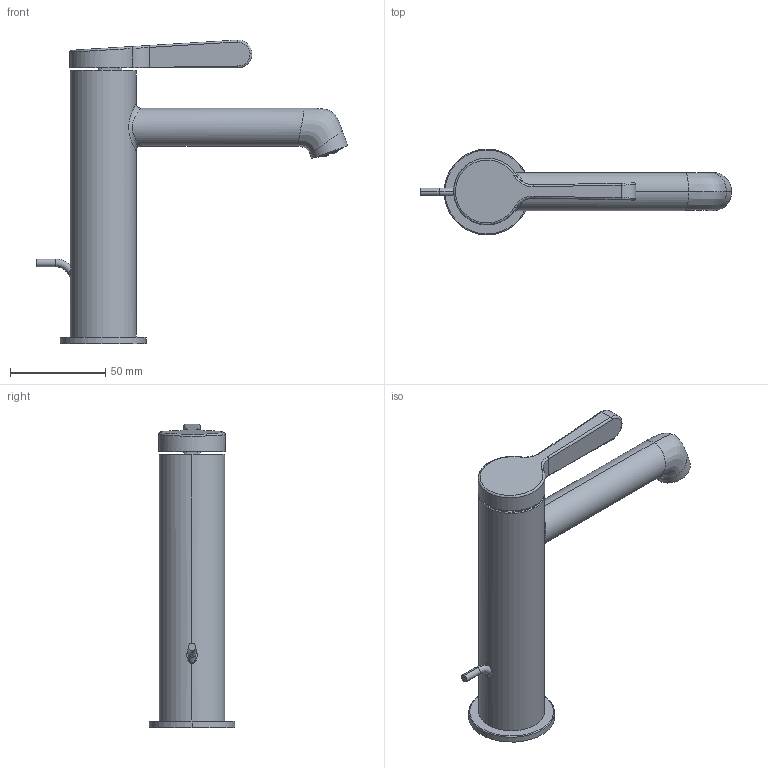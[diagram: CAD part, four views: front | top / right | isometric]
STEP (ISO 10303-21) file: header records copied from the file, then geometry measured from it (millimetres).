
FILE_DESCRIPTION((''),'2;1');
FILE_NAME('DIS_3D_L904F','2024-02-27T10:45:29',('cristian.dorz'),(''),'CREO PARAMETRIC BY PTC INC, 2022281','CREO PARAMETRIC BY PTC INC, 2022281','');
FILE_SCHEMA(('AUTOMOTIVE_DESIGN { 1 0 10303 214 1 1 1 1 }'));
Length unit declared in the file: millimetre
Products named in the file (1): DIS_3D_L904F
Bounding box: 163.17 x 45 x 159.16 mm (x, y, z)
Volume: 184613.8 mm3; surface area: 33747.7 mm2
Topology: 1 solids, 1 shells, 587 faces, 1695 edges, 1107 vertices
Faces by surface type: plane 440, cylinder 101, bspline 22, torus 17, cone 5, sphere 2
Entity records: 32792 total; most frequent: CARTESIAN_POINT 12677, ORIENTED_EDGE 3390, DIRECTION 3315, EDGE_CURVE 1695, AXIS2_PLACEMENT_3D 1174, VERTEX_POINT 1107, VECTOR 964, LINE 964
